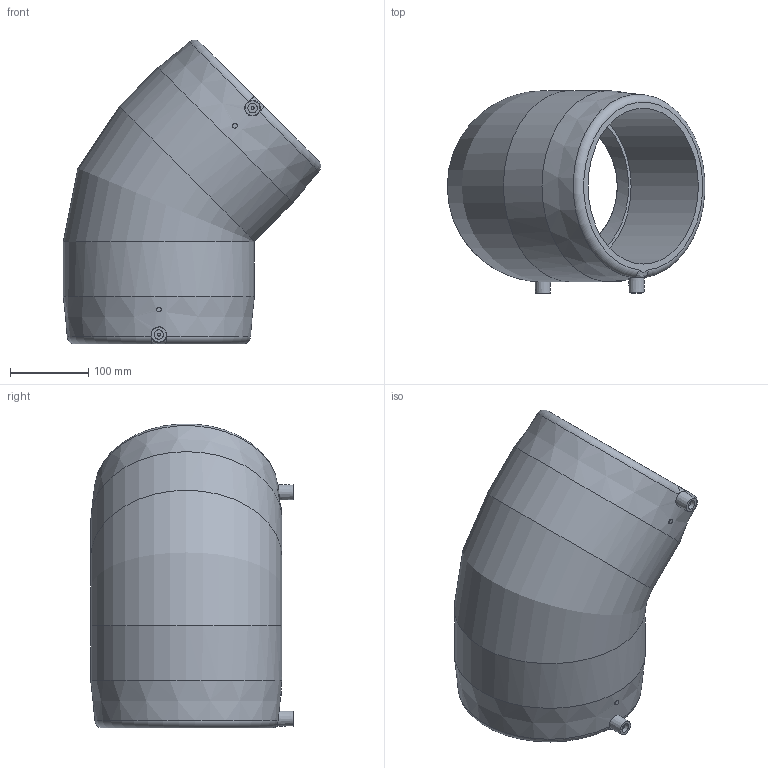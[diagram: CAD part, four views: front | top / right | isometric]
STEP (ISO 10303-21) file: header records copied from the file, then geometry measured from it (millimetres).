
FILE_DESCRIPTION(/* description */ ('Unknown'),/* implementation_level */ '2;1');
FILE_NAME(/* name */ 'GE4P200C',/* time_stamp */ '2020-12-03T12:29:01+01:00',/* author */ ('Unknown'),/* organization */ ('Unknown'),/* preprocessor_version */ 'ST-DEVELOPER v16.7',/* originating_system */ 'Solid Edge',/* authorisation */ 'Unknown');
FILE_SCHEMA (('AUTOMOTIVE_DESIGN {1 0 10303 214 3 1 1}'));
Length unit declared in the file: millimetre
Products named in the file (1): GE4P200C
Bounding box: 330.09 x 259.5 x 389.59 mm (x, y, z)
Volume: 5698982.3 mm3; surface area: 524021 mm2
Topology: 1 solids, 1 shells, 34 faces, 74 edges, 50 vertices
Faces by surface type: plane 12, cylinder 12, cone 4, torus 4, bspline 2
Full cylindrical faces by diameter (mm): 4 x2, 6 x2, 12 x2, 191 x2, 200 x2, 245 x2
Entity records: 1012 total; most frequent: CARTESIAN_POINT 374, DIRECTION 132, ORIENTED_EDGE 90, AXIS2_PLACEMENT_3D 66, EDGE_LOOP 61, FACE_BOUND 61, EDGE_CURVE 45, VERTEX_POINT 38
